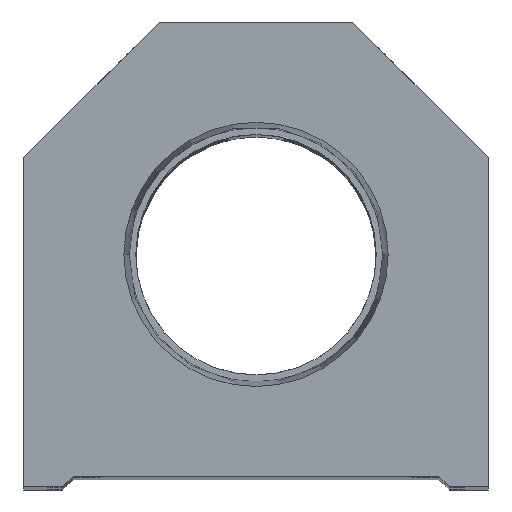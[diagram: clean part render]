
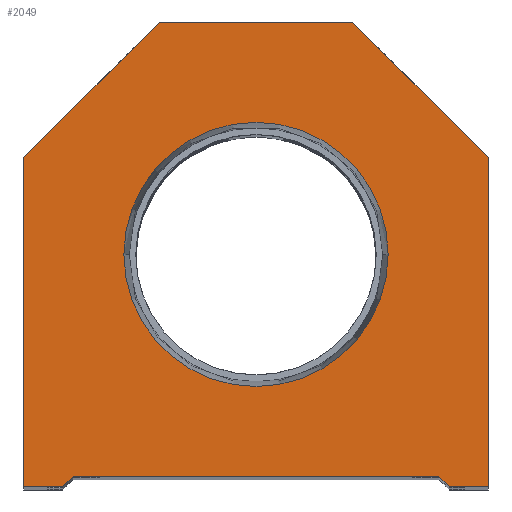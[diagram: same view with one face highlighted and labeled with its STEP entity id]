
A CAD part, top view. The second image highlights one B-rep face of the part: STEP entity #2049.
In plain terms, the highlighted planar face has unit normal (0, 0, 1).
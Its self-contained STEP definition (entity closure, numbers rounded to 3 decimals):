
#38 = DIRECTION ( 'NONE',  ( 1., 0., 0. ) ) ;
#380 = FACE_OUTER_BOUND ( 'NONE', #827, .T. ) ;
#397 = VERTEX_POINT ( 'NONE', #10978 ) ;
#486 = VERTEX_POINT ( 'NONE', #10606 ) ;
#699 = CARTESIAN_POINT ( 'NONE',  ( 9.25, 9.25, 0. ) ) ;
#740 = CARTESIAN_POINT ( 'NONE',  ( -17.5, 1., 0. ) ) ;
#827 = EDGE_LOOP ( 'NONE', ( #1162, #13272, #12589, #9385, #7105, #13020, #2309, #12336, #9990, #1665 ) ) ;
#907 = EDGE_CURVE ( 'NONE', #397, #11263, #1440, .T. ) ;
#1024 = VECTOR ( 'NONE', #6226, 1000. ) ;
#1162 = ORIENTED_EDGE ( 'NONE', *, *, #12820, .T. ) ;
#1214 = EDGE_CURVE ( 'NONE', #2232, #13233, #9801, .T. ) ;
#1347 = CARTESIAN_POINT ( 'NONE',  ( -12.647, 22.25, 0. ) ) ;
#1386 = DIRECTION ( 'NONE',  ( 0., -1., 0. ) ) ;
#1440 = LINE ( 'NONE', #12648, #11275 ) ;
#1605 = CARTESIAN_POINT ( 'NONE',  ( 22.25, 31.5, 0. ) ) ;
#1665 = ORIENTED_EDGE ( 'NONE', *, *, #4087, .T. ) ;
#1717 = CARTESIAN_POINT ( 'NONE',  ( -22.25, 31.5, 0. ) ) ;
#1728 = VECTOR ( 'NONE', #7008, 1000. ) ;
#1904 = AXIS2_PLACEMENT_3D ( 'NONE', #5708, #3651, #38 ) ;
#2049 = ADVANCED_FACE ( 'NONE', ( #10486, #380 ), #4877, .T. ) ;
#2058 = DIRECTION ( 'NONE',  ( 1., 0., 0. ) ) ;
#2232 = VERTEX_POINT ( 'NONE', #4637 ) ;
#2309 = ORIENTED_EDGE ( 'NONE', *, *, #10990, .T. ) ;
#2581 = VECTOR ( 'NONE', #6404, 1000. ) ;
#2602 = VECTOR ( 'NONE', #14560, 1000. ) ;
#2657 = LINE ( 'NONE', #3754, #8281 ) ;
#2829 = VERTEX_POINT ( 'NONE', #1347 ) ;
#2963 = VERTEX_POINT ( 'NONE', #6419 ) ;
#3036 = DIRECTION ( 'NONE',  ( 1., 0., 0. ) ) ;
#3193 = CARTESIAN_POINT ( 'NONE',  ( 17.5, 0., 0. ) ) ;
#3229 = CARTESIAN_POINT ( 'NONE',  ( 9.25, 44.5, 0. ) ) ;
#3651 = DIRECTION ( 'NONE',  ( 0., 0., 1. ) ) ;
#3754 = CARTESIAN_POINT ( 'NONE',  ( -9.25, 9.25, 0. ) ) ;
#3783 = CARTESIAN_POINT ( 'NONE',  ( 0., 0., 0. ) ) ;
#4028 = DIRECTION ( 'NONE',  ( 1., 0., 0. ) ) ;
#4032 = CARTESIAN_POINT ( 'NONE',  ( -22.25, 0., 0. ) ) ;
#4087 = EDGE_CURVE ( 'NONE', #6729, #11224, #13712, .T. ) ;
#4637 = CARTESIAN_POINT ( 'NONE',  ( 9.25, 44.5, 0. ) ) ;
#4877 = PLANE ( 'NONE',  #7058 ) ;
#5119 = CARTESIAN_POINT ( 'NONE',  ( 22.25, 31.5, 0. ) ) ;
#5182 = DIRECTION ( 'NONE',  ( 1., 0., 0. ) ) ;
#5262 = DIRECTION ( 'NONE',  ( 0., 0., 1. ) ) ;
#5675 = CARTESIAN_POINT ( 'NONE',  ( -17.5, 0., 0. ) ) ;
#5708 = CARTESIAN_POINT ( 'NONE',  ( 0., 22.25, 0. ) ) ;
#6070 = VERTEX_POINT ( 'NONE', #10380 ) ;
#6158 = ORIENTED_EDGE ( 'NONE', *, *, #7155, .F. ) ;
#6226 = DIRECTION ( 'NONE',  ( 0.707, -0.707, 0. ) ) ;
#6363 = CIRCLE ( 'NONE', #1904, 12.647 ) ;
#6404 = DIRECTION ( 'NONE',  ( -1., 0., 0. ) ) ;
#6419 = CARTESIAN_POINT ( 'NONE',  ( -18.5, 0., 0. ) ) ;
#6421 = EDGE_CURVE ( 'NONE', #13233, #6729, #13601, .T. ) ;
#6729 = VERTEX_POINT ( 'NONE', #1717 ) ;
#7008 = DIRECTION ( 'NONE',  ( 1., 0., 0. ) ) ;
#7044 = DIRECTION ( 'NONE',  ( 0., 1., 0. ) ) ;
#7058 = AXIS2_PLACEMENT_3D ( 'NONE', #3783, #7396, #3036 ) ;
#7105 = ORIENTED_EDGE ( 'NONE', *, *, #11807, .T. ) ;
#7155 = EDGE_CURVE ( 'NONE', #11143, #2829, #6363, .T. ) ;
#7364 = ORIENTED_EDGE ( 'NONE', *, *, #13627, .F. ) ;
#7396 = DIRECTION ( 'NONE',  ( 0., 0., 1. ) ) ;
#7631 = LINE ( 'NONE', #699, #1024 ) ;
#7850 = AXIS2_PLACEMENT_3D ( 'NONE', #14199, #5262, #4028 ) ;
#8254 = DIRECTION ( 'NONE',  ( 0.707, 0.707, 0. ) ) ;
#8281 = VECTOR ( 'NONE', #8254, 1000. ) ;
#8628 = LINE ( 'NONE', #740, #11846 ) ;
#9385 = ORIENTED_EDGE ( 'NONE', *, *, #13639, .T. ) ;
#9432 = CARTESIAN_POINT ( 'NONE',  ( -9.25, 44.5, 0. ) ) ;
#9704 = VECTOR ( 'NONE', #14072, 1000. ) ;
#9711 = VECTOR ( 'NONE', #5182, 1000. ) ;
#9801 = LINE ( 'NONE', #3229, #2581 ) ;
#9812 = EDGE_LOOP ( 'NONE', ( #6158, #7364 ) ) ;
#9990 = ORIENTED_EDGE ( 'NONE', *, *, #6421, .T. ) ;
#10380 = CARTESIAN_POINT ( 'NONE',  ( 17.5, 1., 0. ) ) ;
#10486 = FACE_BOUND ( 'NONE', #9812, .T. ) ;
#10606 = CARTESIAN_POINT ( 'NONE',  ( -17.5, 1., 0. ) ) ;
#10936 = EDGE_CURVE ( 'NONE', #2963, #486, #2657, .T. ) ;
#10978 = CARTESIAN_POINT ( 'NONE',  ( 22.25, 0., 0. ) ) ;
#10990 = EDGE_CURVE ( 'NONE', #11263, #2232, #12972, .T. ) ;
#11143 = VERTEX_POINT ( 'NONE', #13609 ) ;
#11224 = VERTEX_POINT ( 'NONE', #4032 ) ;
#11263 = VERTEX_POINT ( 'NONE', #5119 ) ;
#11275 = VECTOR ( 'NONE', #7044, 1000. ) ;
#11807 = EDGE_CURVE ( 'NONE', #14143, #397, #12041, .T. ) ;
#11846 = VECTOR ( 'NONE', #2058, 1000. ) ;
#12041 = LINE ( 'NONE', #3193, #9711 ) ;
#12279 = CARTESIAN_POINT ( 'NONE',  ( -22.25, 31.5, 0. ) ) ;
#12336 = ORIENTED_EDGE ( 'NONE', *, *, #1214, .T. ) ;
#12589 = ORIENTED_EDGE ( 'NONE', *, *, #13045, .T. ) ;
#12600 = CARTESIAN_POINT ( 'NONE',  ( -22.25, 0., 0. ) ) ;
#12648 = CARTESIAN_POINT ( 'NONE',  ( 22.25, 0., 0. ) ) ;
#12820 = EDGE_CURVE ( 'NONE', #11224, #2963, #14527, .T. ) ;
#12972 = LINE ( 'NONE', #1605, #9704 ) ;
#13020 = ORIENTED_EDGE ( 'NONE', *, *, #907, .T. ) ;
#13045 = EDGE_CURVE ( 'NONE', #486, #6070, #8628, .T. ) ;
#13233 = VERTEX_POINT ( 'NONE', #9432 ) ;
#13272 = ORIENTED_EDGE ( 'NONE', *, *, #10936, .T. ) ;
#13427 = CARTESIAN_POINT ( 'NONE',  ( 18.5, 0., 0. ) ) ;
#13601 = LINE ( 'NONE', #12279, #2602 ) ;
#13609 = CARTESIAN_POINT ( 'NONE',  ( 12.647, 22.25, 0. ) ) ;
#13627 = EDGE_CURVE ( 'NONE', #2829, #11143, #14219, .T. ) ;
#13639 = EDGE_CURVE ( 'NONE', #6070, #14143, #7631, .T. ) ;
#13656 = VECTOR ( 'NONE', #1386, 1000. ) ;
#13712 = LINE ( 'NONE', #12600, #13656 ) ;
#14072 = DIRECTION ( 'NONE',  ( -0.707, 0.707, 0. ) ) ;
#14143 = VERTEX_POINT ( 'NONE', #13427 ) ;
#14199 = CARTESIAN_POINT ( 'NONE',  ( 0., 22.25, 0. ) ) ;
#14219 = CIRCLE ( 'NONE', #7850, 12.647 ) ;
#14527 = LINE ( 'NONE', #5675, #1728 ) ;
#14560 = DIRECTION ( 'NONE',  ( -0.707, -0.707, 0. ) ) ;
